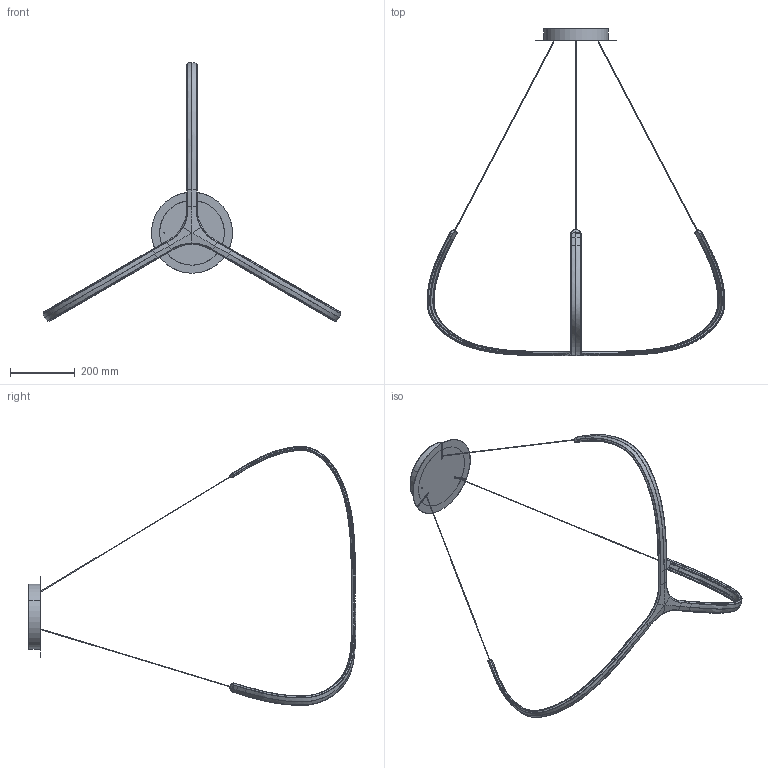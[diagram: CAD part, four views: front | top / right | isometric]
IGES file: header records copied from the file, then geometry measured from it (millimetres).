
Start section: SolidWorks IGES file using analytic representation for surfaces
Global section: file name: C:\Users\tungari.NEMOLIGHTING\Desktop\3D\PENDANT\3D_ALYA\DEFEATURE_3D_ALYA_PENDANT\3D_ALYA.IGS; native system: SolidWorks 2016; preprocessor: SolidWorks 2016; author: tungari; date: 180221.151053; units: millimetre
Bounding box: 919.94 x 1012.5 x 799.76 mm (x, y, z)
Surface area: 514870.7 mm2 (no closed solid volume)
Topology: 0 solids, 0 shells, 647 faces, 5965 edges, 5965 vertices
Faces by surface type: bspline 519, revolution 128
